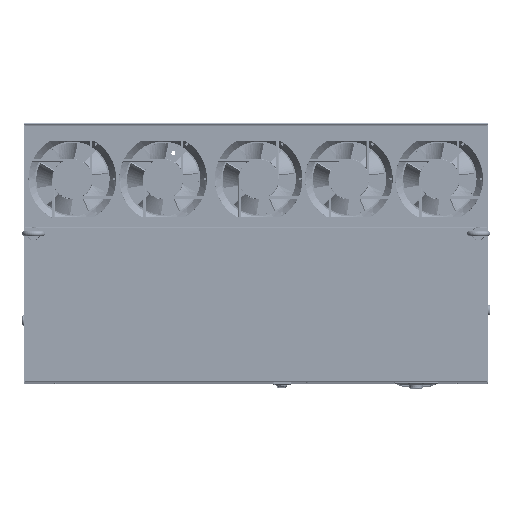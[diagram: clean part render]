
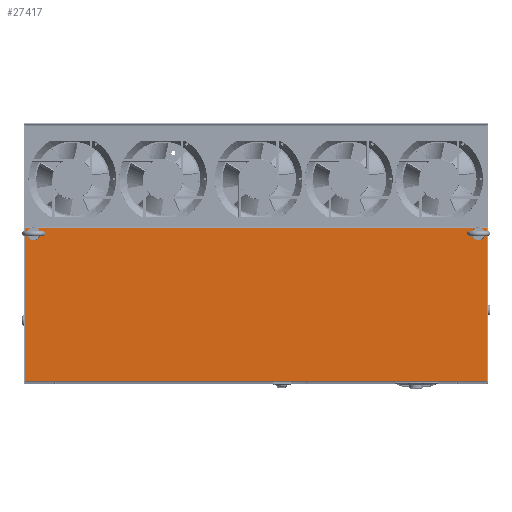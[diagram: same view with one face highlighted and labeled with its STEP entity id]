
A CAD part, top view. The second image highlights one B-rep face of the part: STEP entity #27417.
In plain terms, the highlighted planar face has unit normal (0, 0, 1) as drawn and (0, 0, -1) by its records, which use the part's own axes.
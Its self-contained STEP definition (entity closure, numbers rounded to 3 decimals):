
#23715=DIRECTION('',(1.,0.,0.));
#23716=VECTOR('',#23715,896.);
#23717=CARTESIAN_POINT('',(-448.,148.,-2.));
#23718=LINE('',#23717,#23716);
#23732=DIRECTION('',(0.,1.,0.));
#23733=VECTOR('',#23732,295.8);
#23734=CARTESIAN_POINT('',(-448.,-147.8,-2.));
#23735=LINE('',#23734,#23733);
#23754=DIRECTION('',(-1.,0.,0.));
#23755=VECTOR('',#23754,896.);
#23756=CARTESIAN_POINT('',(448.,-147.8,-2.));
#23757=LINE('',#23756,#23755);
#24562=DIRECTION('',(0.,-1.,0.));
#24563=VECTOR('',#24562,295.8);
#24564=CARTESIAN_POINT('',(448.,148.,-2.));
#24565=LINE('',#24564,#24563);
#24575=CARTESIAN_POINT('',(431.,-137.5,-2.));
#24576=DIRECTION('',(0.,0.,-1.));
#24577=DIRECTION('',(-1.,0.,0.));
#24578=AXIS2_PLACEMENT_3D('',#24575,#24576,#24577);
#24580=CARTESIAN_POINT('',(431.,-137.5,-2.));
#24581=DIRECTION('',(0.,0.,-1.));
#24582=DIRECTION('',(1.,0.,0.));
#24583=AXIS2_PLACEMENT_3D('',#24580,#24581,#24582);
#24585=CARTESIAN_POINT('',(-431.,-137.5,-2.));
#24586=DIRECTION('',(0.,0.,-1.));
#24587=DIRECTION('',(-1.,0.,0.));
#24588=AXIS2_PLACEMENT_3D('',#24585,#24586,#24587);
#24590=CARTESIAN_POINT('',(-431.,-137.5,-2.));
#24591=DIRECTION('',(0.,0.,-1.));
#24592=DIRECTION('',(1.,0.,0.));
#24593=AXIS2_PLACEMENT_3D('',#24590,#24591,#24592);
#25135=CARTESIAN_POINT('',(-448.,148.,-2.));
#25136=VERTEX_POINT('',#25135);
#25137=CARTESIAN_POINT('',(448.,148.,-2.));
#25138=VERTEX_POINT('',#25137);
#25139=CARTESIAN_POINT('',(-448.,-147.8,-2.));
#25140=VERTEX_POINT('',#25139);
#25147=CARTESIAN_POINT('',(448.,-147.8,-2.));
#25148=VERTEX_POINT('',#25147);
#25515=CARTESIAN_POINT('',(424.,-137.5,-2.));
#25516=CARTESIAN_POINT('',(438.,-137.5,-2.));
#25517=VERTEX_POINT('',#25515);
#25518=VERTEX_POINT('',#25516);
#25519=CARTESIAN_POINT('',(-438.,-137.5,-2.));
#25520=CARTESIAN_POINT('',(-424.,-137.5,-2.));
#25521=VERTEX_POINT('',#25519);
#25522=VERTEX_POINT('',#25520);
#27394=CARTESIAN_POINT('',(0.,0.,-2.));
#27395=DIRECTION('',(0.,0.,1.));
#27396=DIRECTION('',(1.,0.,0.));
#27397=AXIS2_PLACEMENT_3D('',#27394,#27395,#27396);
#27398=PLANE('',#27397);
#27399=ORIENTED_EDGE('',*,*,#27363,.F.);
#27400=ORIENTED_EDGE('',*,*,#26116,.F.);
#27401=ORIENTED_EDGE('',*,*,#26157,.F.);
#27402=ORIENTED_EDGE('',*,*,#26201,.F.);
#27403=EDGE_LOOP('',(#27399,#27400,#27401,#27402));
#27404=FACE_OUTER_BOUND('',#27403,.F.);
#27406=ORIENTED_EDGE('',*,*,#27405,.T.);
#27408=ORIENTED_EDGE('',*,*,#27407,.T.);
#27409=EDGE_LOOP('',(#27406,#27408));
#27410=FACE_BOUND('',#27409,.F.);
#27412=ORIENTED_EDGE('',*,*,#27411,.T.);
#27414=ORIENTED_EDGE('',*,*,#27413,.T.);
#27415=EDGE_LOOP('',(#27412,#27414));
#27416=FACE_BOUND('',#27415,.F.);
#24579=CIRCLE('',#24578,7.);
#24584=CIRCLE('',#24583,7.);
#24589=CIRCLE('',#24588,7.);
#24594=CIRCLE('',#24593,7.);
#26116=EDGE_CURVE('',#25136,#25138,#23718,.T.);
#26157=EDGE_CURVE('',#25140,#25136,#23735,.T.);
#26201=EDGE_CURVE('',#25148,#25140,#23757,.T.);
#27363=EDGE_CURVE('',#25138,#25148,#24565,.T.);
#27405=EDGE_CURVE('',#25517,#25518,#24579,.T.);
#27407=EDGE_CURVE('',#25518,#25517,#24584,.T.);
#27411=EDGE_CURVE('',#25521,#25522,#24589,.T.);
#27413=EDGE_CURVE('',#25522,#25521,#24594,.T.);
#27417=ADVANCED_FACE('',(#27404,#27410,#27416),#27398,.F.);
